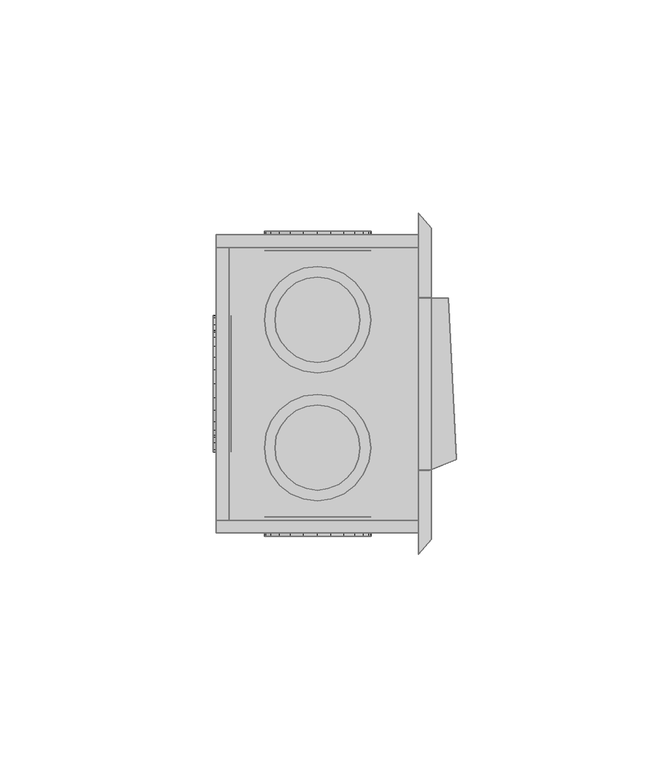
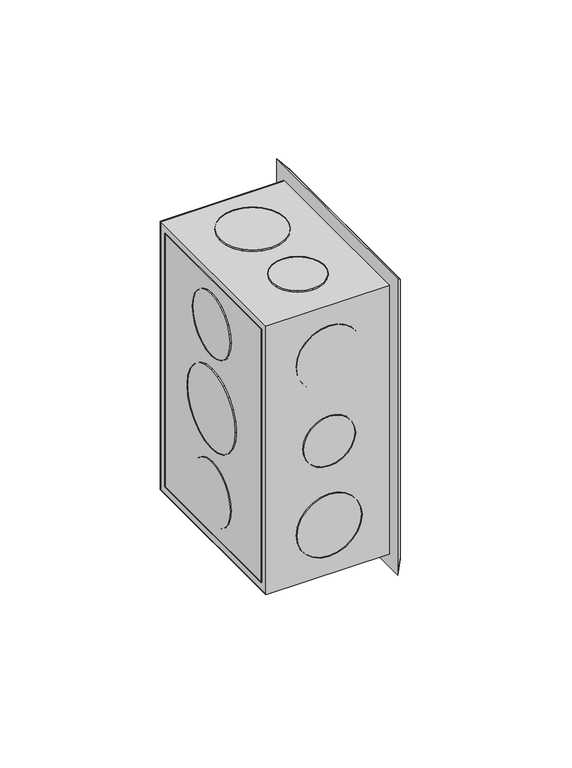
"""IFC4 building model written with IfcOpenShell, lengths in millimetres: proxy geometry,  210971 :  210971."""

from ifc_helpers import new_model, si_unit, origin, place, context, project, spatial, triangles, source, transform, mapped, element, save


def generic_models_83284b2e(model_context):
    return source(origin(), model_context, "Body", "Tessellation", [
        triangles([(6623.3997849, 27279.9999756, 1254.3000378), (6623.3997849, 27277.0001587, 1148.7000154), (6623.3997849, 27279.9999756, 1145.6999805), (6623.3997849, 27277.0001587, 1251.2999302), (6623.3997849, 27209.9995972, 1254.3000378), (6623.3997849, 27212.9994141, 1251.2999302), (6623.3997849, 27209.9995972, 1145.6999805), (6623.3997849, 27212.9994141, 1148.7000154), (6575.8997772, 27277.0001587, 1251.2999302), (6575.8997772, 27277.0001587, 1148.7000154), (6575.8997772, 27209.9995972, 1254.3000378), (6575.8997772, 27209.9995972, 1145.6999805), (6575.8997772, 27212.9994141, 1251.2999302), (6575.8997772, 27279.9999756, 1145.6999805), (6575.8997772, 27212.9994141, 1148.7000154), (6575.8997772, 27279.9999756, 1254.3000378), (6578.9001755, 27277.0001587, 1251.2999302), (6578.9001755, 27212.9994141, 1148.7000154), (6578.9001755, 27277.0001587, 1148.7000154), (6578.9001755, 27212.9994141, 1251.2999302), (6579.400145, 27258.898938, 1191.9999887), (6579.400145, 27252.9992981, 1186.0999855), (6579.400145, 27256.2990967, 1188.6999722), (6579.400145, 27260.4988403, 1195.8999687), (6579.400145, 27249.19953, 1184.5000105), (6579.400145, 27261.0011353, 1200.0000092), (6579.400145, 27244.9997864, 1183.9999683), (6579.400145, 27260.4988403, 1204.0999769), (6579.400145, 27240.9000366, 1184.5000105), (6579.400145, 27258.898938, 1208.0000296), (6579.400145, 27237.0002747, 1186.0999855), (6579.400145, 27256.2990967, 1211.2999735), (6579.400145, 27233.7004761, 1188.6999722), (6579.400145, 27252.9992981, 1213.9000328), (6579.400145, 27231.2006287, 1191.9999887), (6579.400145, 27249.19953, 1215.5000078), (6579.400145, 27229.6007263, 1195.8999687), (6579.400145, 27244.9997864, 1215.9999773), (6579.400145, 27229.0007629, 1200.0000092), (6579.400145, 27240.9000366, 1215.5000078), (6579.400145, 27229.6007263, 1204.0999769), (6579.400145, 27237.0002747, 1213.9000328), (6579.400145, 27231.2006287, 1208.0000296), (6579.400145, 27233.7004761, 1211.2999735), (6575.1998199, 27240.9000366, 1184.5000105), (6575.1998199, 27244.9997864, 1183.9999683), (6575.1998199, 27249.19953, 1184.5000105), (6575.1998199, 27252.9992981, 1186.0999855), (6575.1998199, 27256.2990967, 1188.6999722), (6575.1998199, 27258.898938, 1191.9999887), (6575.1998199, 27260.4988403, 1195.8999687), (6575.1998199, 27261.0011353, 1200.0000092), (6575.1998199, 27260.4988403, 1204.0999769), (6575.1998199, 27258.898938, 1208.0000296), (6575.1998199, 27256.2990967, 1211.2999735), (6575.1998199, 27252.9992981, 1213.9000328), (6575.1998199, 27249.19953, 1215.5000078), (6575.1998199, 27244.9997864, 1215.9999773), (6575.1998199, 27240.9000366, 1215.5000078), (6575.1998199, 27237.0002747, 1213.9000328), (6575.1998199, 27233.7004761, 1211.2999735), (6575.1998199, 27231.2006287, 1208.0000296), (6575.1998199, 27229.6007263, 1204.0999769), (6575.1998199, 27229.0007629, 1200.0000092), (6575.1998199, 27229.6007263, 1195.8999687), (6575.1998199, 27231.2006287, 1191.9999887), (6575.1998199, 27233.7004761, 1188.6999722), (6575.1998199, 27237.0002747, 1186.0999855), (6579.400145, 27255.8991211, 1227.8000565), (6579.400145, 27251.2994019, 1223.2000465), (6579.400145, 27253.8992432, 1225.2000698), (6579.400145, 27257.0990479, 1230.8000187), (6579.400145, 27248.299585, 1221.8999805), (6579.400145, 27257.4990234, 1233.9999687), (6579.400145, 27244.9997864, 1221.500005), (6579.400145, 27257.0990479, 1237.2000641), (6579.400145, 27241.7999817, 1221.8999805), (6579.400145, 27255.8991211, 1240.3000202), (6579.400145, 27238.8001648, 1223.2000465), (6579.400145, 27253.8992432, 1242.800013), (6579.400145, 27236.2003235, 1225.2000698), (6579.400145, 27234.2004456, 1227.8000565), (6579.400145, 27251.2994019, 1244.8000362), (6579.400145, 27248.299585, 1246.0999569), (6579.400145, 27233.0005188, 1230.8000187), (6579.400145, 27244.9997864, 1246.4999325), (6579.400145, 27232.5005493, 1233.9999687), (6579.400145, 27241.7999817, 1246.0999569), (6579.400145, 27233.0005188, 1237.2000641), (6579.400145, 27234.2004456, 1240.3000202), (6579.400145, 27238.8001648, 1244.8000362), (6579.400145, 27236.2003235, 1242.800013), (6575.1998199, 27233.0005188, 1230.8000187), (6575.1998199, 27234.2004456, 1227.8000565), (6575.1998199, 27236.2003235, 1225.2000698), (6575.1998199, 27238.8001648, 1223.2000465), (6575.1998199, 27241.7999817, 1221.8999805), (6575.1998199, 27244.9997864, 1221.500005), (6575.1998199, 27248.299585, 1221.8999805), (6575.1998199, 27251.2994019, 1223.2000465), (6575.1998199, 27253.8992432, 1225.2000698), (6575.1998199, 27255.8991211, 1227.8000565), (6575.1998199, 27257.0990479, 1230.8000187), (6575.1998199, 27257.4990234, 1233.9999687), (6575.1998199, 27257.0990479, 1237.2000641), (6575.1998199, 27255.8991211, 1240.3000202), (6575.1998199, 27253.8992432, 1242.800013), (6575.1998199, 27251.2994019, 1244.8000362), (6575.1998199, 27248.299585, 1246.0999569), (6575.1998199, 27244.9997864, 1246.4999325), (6575.1998199, 27241.7999817, 1246.0999569), (6575.1998199, 27238.8001648, 1244.8000362), (6575.1998199, 27236.2003235, 1242.800013), (6575.1998199, 27234.2004456, 1240.3000202), (6575.1998199, 27233.0005188, 1237.2000641), (6575.1998199, 27232.5005493, 1233.9999687), (6575.1998199, 27251.2994019, 1155.1999821), (6575.1998199, 27255.8991211, 1159.6999981), (6575.1998199, 27253.8992432, 1157.2000053), (6575.1998199, 27248.299585, 1153.8999887), (6575.1998199, 27257.0990479, 1162.8000269), (6575.1998199, 27244.9997864, 1153.5000132), (6575.1998199, 27257.4990234, 1165.9999769), (6575.1998199, 27241.7999817, 1153.8999887), (6575.1998199, 27257.0990479, 1169.1999996), (6575.1998199, 27238.8001648, 1155.1999821), (6575.1998199, 27255.8991211, 1172.2000345), (6575.1998199, 27236.2003235, 1157.2000053), (6575.1998199, 27253.8992432, 1174.8000212), (6575.1998199, 27234.2004456, 1159.6999981), (6575.1998199, 27251.2994019, 1176.7999718), (6575.1998199, 27233.0005188, 1162.8000269), (6575.1998199, 27248.299585, 1178.0999651), (6575.1998199, 27244.9997864, 1178.5000134), (6575.1998199, 27232.5005493, 1165.9999769), (6575.1998199, 27233.0005188, 1169.1999996), (6575.1998199, 27241.7999817, 1178.0999651), (6575.1998199, 27234.2004456, 1172.2000345), (6575.1998199, 27238.8001648, 1176.7999718), (6575.1998199, 27236.2003235, 1174.8000212), (6579.400145, 27248.299585, 1178.0999651), (6579.400145, 27244.9997864, 1178.5000134), (6579.400145, 27251.2994019, 1176.7999718), (6579.400145, 27253.8992432, 1174.8000212), (6579.400145, 27255.8991211, 1172.2000345), (6579.400145, 27257.0990479, 1169.1999996), (6579.400145, 27257.4990234, 1165.9999769), (6579.400145, 27257.0990479, 1162.8000269), (6579.400145, 27255.8991211, 1159.6999981), (6579.400145, 27253.8992432, 1157.2000053), (6579.400145, 27251.2994019, 1155.1999821), (6579.400145, 27248.299585, 1153.8999887), (6579.400145, 27244.9997864, 1153.5000132), (6579.400145, 27241.7999817, 1153.8999887), (6579.400145, 27238.8001648, 1155.1999821), (6579.400145, 27236.2003235, 1157.2000053), (6579.400145, 27234.2004456, 1159.6999981), (6579.400145, 27233.0005188, 1162.8000269), (6579.400145, 27232.5005493, 1165.9999769), (6579.400145, 27233.0005188, 1169.1999996), (6579.400145, 27234.2004456, 1172.2000345), (6579.400145, 27236.2003235, 1174.8000212), (6579.400145, 27238.8001648, 1176.7999718), (6579.400145, 27241.7999817, 1178.0999651), (6594.6997925, 27276.2002075, 1191.3000315), (6591.0000183, 27276.2002075, 1195.0000237), (6592.5999207, 27276.2002075, 1192.9000065), (6590.0000793, 27276.2002075, 1197.4000225), (6597.1002274, 27276.2002075, 1190.3000198), (6589.7000977, 27276.2002075, 1200.0000092), (6599.7000687, 27276.2002075, 1189.9999655), (6602.1999161, 27276.2002075, 1190.3000198), (6590.0000793, 27276.2002075, 1202.5999958), (6591.0000183, 27276.2002075, 1204.9999947), (6604.6997635, 27276.2002075, 1191.3000315), (6592.5999207, 27276.2002075, 1207.1000118), (6606.7002228, 27276.2002075, 1192.9000065), (6608.3001251, 27276.2002075, 1195.0000237), (6594.6997925, 27276.2002075, 1208.6999868), (6609.3000641, 27276.2002075, 1197.4000225), (6597.1002274, 27276.2002075, 1209.6999985), (6609.7000397, 27276.2002075, 1200.0000092), (6599.7000687, 27276.2002075, 1209.9999802), (6609.3000641, 27276.2002075, 1202.5999958), (6602.1999161, 27276.2002075, 1209.6999985), (6604.6997635, 27276.2002075, 1208.6999868), (6608.3001251, 27276.2002075, 1204.9999947), (6606.7002228, 27276.2002075, 1207.1000118), (6599.7000687, 27280.7999268, 1189.9999655), (6597.1002274, 27280.7999268, 1190.3000198), (6602.1999161, 27280.7999268, 1190.3000198), (6604.6997635, 27280.7999268, 1191.3000315), (6606.7002228, 27280.7999268, 1192.9000065), (6608.3001251, 27280.7999268, 1195.0000237), (6609.3000641, 27280.7999268, 1197.4000225), (6609.7000397, 27280.7999268, 1200.0000092), (6609.3000641, 27280.7999268, 1202.5999958), (6608.3001251, 27280.7999268, 1204.9999947), (6606.7002228, 27280.7999268, 1207.1000118), (6604.6997635, 27280.7999268, 1208.6999868), (6602.1999161, 27280.7999268, 1209.6999985), (6599.7000687, 27280.7999268, 1209.9999802), (6597.1002274, 27280.7999268, 1209.6999985), (6594.6997925, 27280.7999268, 1208.6999868), (6592.5999207, 27280.7999268, 1207.1000118), (6591.0000183, 27280.7999268, 1204.9999947), (6590.0000793, 27280.7999268, 1202.5999958), (6589.7000977, 27280.7999268, 1200.0000092), (6590.0000793, 27280.7999268, 1197.4000225), (6591.0000183, 27280.7999268, 1195.0000237), (6592.5999207, 27280.7999268, 1192.9000065), (6594.6997925, 27280.7999268, 1191.3000315), (6593.3998718, 27276.2002075, 1223.2000465), (6588.8001526, 27276.2002075, 1227.8000565), (6590.8000305, 27276.2002075, 1225.2000698), (6596.4002701, 27276.2002075, 1221.8999805), (6587.6002258, 27276.2002075, 1230.8000187), (6587.2002502, 27276.2002075, 1233.9999687), (6599.7000687, 27276.2002075, 1221.500005), (6602.8998734, 27276.2002075, 1221.8999805), (6587.6002258, 27276.2002075, 1237.2000641), (6588.8001526, 27276.2002075, 1240.3000202), (6605.9002716, 27276.2002075, 1223.2000465), (6608.5001129, 27276.2002075, 1225.2000698), (6590.8000305, 27276.2002075, 1242.800013), (6610.4999908, 27276.2002075, 1227.8000565), (6593.3998718, 27276.2002075, 1244.8000362), (6611.6999176, 27276.2002075, 1230.8000187), (6596.4002701, 27276.2002075, 1246.0999569), (6612.1998871, 27276.2002075, 1233.9999687), (6599.7000687, 27276.2002075, 1246.4999325), (6611.6999176, 27276.2002075, 1237.2000641), (6602.8998734, 27276.2002075, 1246.0999569), (6610.4999908, 27276.2002075, 1240.3000202), (6605.9002716, 27276.2002075, 1244.8000362), (6608.5001129, 27276.2002075, 1242.800013), (6599.7000687, 27280.7999268, 1221.500005), (6596.4002701, 27280.7999268, 1221.8999805), (6602.8998734, 27280.7999268, 1221.8999805), (6605.9002716, 27280.7999268, 1223.2000465), (6608.5001129, 27280.7999268, 1225.2000698), (6610.4999908, 27280.7999268, 1227.8000565), (6611.6999176, 27280.7999268, 1230.8000187), (6612.1998871, 27280.7999268, 1233.9999687), (6611.6999176, 27280.7999268, 1237.2000641), (6610.4999908, 27280.7999268, 1240.3000202), (6608.5001129, 27280.7999268, 1242.800013), (6605.9002716, 27280.7999268, 1244.8000362), (6602.8998734, 27280.7999268, 1246.0999569), (6599.7000687, 27280.7999268, 1246.4999325), (6596.4002701, 27280.7999268, 1246.0999569), (6593.3998718, 27280.7999268, 1244.8000362), (6590.8000305, 27280.7999268, 1242.800013), (6588.8001526, 27280.7999268, 1240.3000202), (6587.6002258, 27280.7999268, 1237.2000641), (6587.2002502, 27280.7999268, 1233.9999687), (6587.6002258, 27280.7999268, 1230.8000187), (6588.8001526, 27280.7999268, 1227.8000565), (6590.8000305, 27280.7999268, 1225.2000698), (6593.3998718, 27280.7999268, 1223.2000465), (6588.8001526, 27280.7999268, 1159.6999981), (6593.3998718, 27280.7999268, 1155.1999821), (6590.8000305, 27280.7999268, 1157.2000053), (6587.6002258, 27280.7999268, 1162.8000269), (6596.4002701, 27280.7999268, 1153.8999887), (6587.2002502, 27280.7999268, 1165.9999769), (6599.7000687, 27280.7999268, 1153.5000132), (6587.6002258, 27280.7999268, 1169.1999996), (6602.8998734, 27280.7999268, 1153.8999887), (6588.8001526, 27280.7999268, 1172.2000345), (6605.9002716, 27280.7999268, 1155.1999821), (6590.8000305, 27280.7999268, 1174.8000212), (6608.5001129, 27280.7999268, 1157.2000053), (6593.3998718, 27280.7999268, 1176.7999718), (6610.4999908, 27280.7999268, 1159.6999981), (6596.4002701, 27280.7999268, 1178.0999651), (6611.6999176, 27280.7999268, 1162.8000269), (6599.7000687, 27280.7999268, 1178.5000134), (6612.1998871, 27280.7999268, 1165.9999769), (6602.8998734, 27280.7999268, 1178.0999651), (6611.6999176, 27280.7999268, 1169.1999996), (6605.9002716, 27280.7999268, 1176.7999718), (6610.4999908, 27280.7999268, 1172.2000345), (6608.5001129, 27280.7999268, 1174.8000212), (6596.4002701, 27276.2002075, 1178.0999651), (6599.7000687, 27276.2002075, 1178.5000134), (6602.8998734, 27276.2002075, 1178.0999651), (6605.9002716, 27276.2002075, 1176.7999718), (6608.5001129, 27276.2002075, 1174.8000212), (6610.4999908, 27276.2002075, 1172.2000345), (6611.6999176, 27276.2002075, 1169.1999996), (6612.1998871, 27276.2002075, 1165.9999769), (6611.6999176, 27276.2002075, 1162.8000269), (6610.4999908, 27276.2002075, 1159.6999981), (6608.5001129, 27276.2002075, 1157.2000053), (6605.9002716, 27276.2002075, 1155.1999821), (6602.8998734, 27276.2002075, 1153.8999887), (6599.7000687, 27276.2002075, 1153.5000132), (6596.4002701, 27276.2002075, 1153.8999887), (6593.3998718, 27276.2002075, 1155.1999821), (6590.8000305, 27276.2002075, 1157.2000053), (6588.8001526, 27276.2002075, 1159.6999981), (6587.6002258, 27276.2002075, 1162.8000269), (6587.2002502, 27276.2002075, 1165.9999769), (6587.6002258, 27276.2002075, 1169.1999996), (6588.8001526, 27276.2002075, 1172.2000345), (6590.8000305, 27276.2002075, 1174.8000212), (6593.3998718, 27276.2002075, 1176.7999718), (6591.0000183, 27213.7993652, 1195.0000237), (6594.6997925, 27213.7993652, 1191.3000315), (6592.5999207, 27213.7993652, 1192.9000065), (6590.0000793, 27213.7993652, 1197.4000225), (6597.1002274, 27213.7993652, 1190.3000198), (6589.7000977, 27213.7993652, 1200.0000092), (6599.7000687, 27213.7993652, 1189.9999655), (6590.0000793, 27213.7993652, 1202.5999958), (6602.1999161, 27213.7993652, 1190.3000198), (6591.0000183, 27213.7993652, 1204.9999947), (6604.6997635, 27213.7993652, 1191.3000315), (6592.5999207, 27213.7993652, 1207.1000118), (6606.7002228, 27213.7993652, 1192.9000065), (6594.6997925, 27213.7993652, 1208.6999868), (6608.3001251, 27213.7993652, 1195.0000237), (6597.1002274, 27213.7993652, 1209.6999985), (6609.3000641, 27213.7993652, 1197.4000225), (6609.7000397, 27213.7993652, 1200.0000092), (6599.7000687, 27213.7993652, 1209.9999802), (6602.1999161, 27213.7993652, 1209.6999985), (6609.3000641, 27213.7993652, 1202.5999958), (6604.6997635, 27213.7993652, 1208.6999868), (6608.3001251, 27213.7993652, 1204.9999947), (6606.7002228, 27213.7993652, 1207.1000118), (6597.1002274, 27209.199646, 1209.6999985), (6599.7000687, 27209.199646, 1209.9999802), (6602.1999161, 27209.199646, 1209.6999985), (6604.6997635, 27209.199646, 1208.6999868), (6606.7002228, 27209.199646, 1207.1000118), (6608.3001251, 27209.199646, 1204.9999947), (6609.3000641, 27209.199646, 1202.5999958), (6609.7000397, 27209.199646, 1200.0000092), (6609.3000641, 27209.199646, 1197.4000225), (6608.3001251, 27209.199646, 1195.0000237), (6606.7002228, 27209.199646, 1192.9000065), (6604.6997635, 27209.199646, 1191.3000315), (6602.1999161, 27209.199646, 1190.3000198), (6599.7000687, 27209.199646, 1189.9999655), (6597.1002274, 27209.199646, 1190.3000198), (6594.6997925, 27209.199646, 1191.3000315), (6592.5999207, 27209.199646, 1192.9000065), (6591.0000183, 27209.199646, 1195.0000237), (6590.0000793, 27209.199646, 1197.4000225), (6589.7000977, 27209.199646, 1200.0000092), (6590.0000793, 27209.199646, 1202.5999958), (6591.0000183, 27209.199646, 1204.9999947), (6592.5999207, 27209.199646, 1207.1000118), (6594.6997925, 27209.199646, 1208.6999868), (6588.8001526, 27213.7993652, 1159.6999981), (6593.3998718, 27213.7993652, 1155.1999821), (6590.8000305, 27213.7993652, 1157.2000053), (6587.6002258, 27213.7993652, 1162.8000269), (6596.4002701, 27213.7993652, 1153.8999887), (6587.2002502, 27213.7993652, 1165.9999769), (6599.7000687, 27213.7993652, 1153.5000132), (6587.6002258, 27213.7993652, 1169.1999996), (6602.8998734, 27213.7993652, 1153.8999887), (6588.8001526, 27213.7993652, 1172.2000345), (6605.9002716, 27213.7993652, 1155.1999821), (6590.8000305, 27213.7993652, 1174.8000212), (6608.5001129, 27213.7993652, 1157.2000053), (6593.3998718, 27213.7993652, 1176.7999718), (6610.4999908, 27213.7993652, 1159.6999981), (6596.4002701, 27213.7993652, 1178.0999651), (6611.6999176, 27213.7993652, 1162.8000269), (6599.7000687, 27213.7993652, 1178.5000134), (6612.1998871, 27213.7993652, 1165.9999769), (6602.8998734, 27213.7993652, 1178.0999651), (6611.6999176, 27213.7993652, 1169.1999996), (6605.9002716, 27213.7993652, 1176.7999718), (6610.4999908, 27213.7993652, 1172.2000345), (6608.5001129, 27213.7993652, 1174.8000212), (6596.4002701, 27209.199646, 1178.0999651), (6599.7000687, 27209.199646, 1178.5000134), (6602.8998734, 27209.199646, 1178.0999651), (6605.9002716, 27209.199646, 1176.7999718), (6608.5001129, 27209.199646, 1174.8000212), (6610.4999908, 27209.199646, 1172.2000345), (6611.6999176, 27209.199646, 1169.1999996), (6612.1998871, 27209.199646, 1165.9999769), (6611.6999176, 27209.199646, 1162.8000269), (6610.4999908, 27209.199646, 1159.6999981), (6608.5001129, 27209.199646, 1157.2000053), (6605.9002716, 27209.199646, 1155.1999821), (6602.8998734, 27209.199646, 1153.8999887), (6599.7000687, 27209.199646, 1153.5000132), (6596.4002701, 27209.199646, 1153.8999887), (6593.3998718, 27209.199646, 1155.1999821), (6590.8000305, 27209.199646, 1157.2000053), (6588.8001526, 27209.199646, 1159.6999981), (6587.6002258, 27209.199646, 1162.8000269), (6587.2002502, 27209.199646, 1165.9999769), (6587.6002258, 27209.199646, 1169.1999996), (6588.8001526, 27209.199646, 1172.2000345), (6590.8000305, 27209.199646, 1174.8000212), (6593.3998718, 27209.199646, 1176.7999718), (6593.3998718, 27209.199646, 1223.2000465), (6588.8001526, 27209.199646, 1227.8000565), (6590.8000305, 27209.199646, 1225.2000698), (6596.4002701, 27209.199646, 1221.8999805), (6587.6002258, 27209.199646, 1230.8000187), (6587.2002502, 27209.199646, 1233.9999687), (6599.7000687, 27209.199646, 1221.500005), (6602.8998734, 27209.199646, 1221.8999805), (6587.6002258, 27209.199646, 1237.2000641), (6588.8001526, 27209.199646, 1240.3000202), (6605.9002716, 27209.199646, 1223.2000465), (6608.5001129, 27209.199646, 1225.2000698), (6590.8000305, 27209.199646, 1242.800013), (6610.4999908, 27209.199646, 1227.8000565), (6593.3998718, 27209.199646, 1244.8000362), (6611.6999176, 27209.199646, 1230.8000187), (6596.4002701, 27209.199646, 1246.0999569), (6612.1998871, 27209.199646, 1233.9999687), (6599.7000687, 27209.199646, 1246.4999325), (6611.6999176, 27209.199646, 1237.2000641), (6602.8998734, 27209.199646, 1246.0999569), (6610.4999908, 27209.199646, 1240.3000202), (6605.9002716, 27209.199646, 1244.8000362), (6608.5001129, 27209.199646, 1242.800013), (6599.7000687, 27213.7993652, 1221.500005), (6596.4002701, 27213.7993652, 1221.8999805), (6602.8998734, 27213.7993652, 1221.8999805), (6605.9002716, 27213.7993652, 1223.2000465), (6608.5001129, 27213.7993652, 1225.2000698), (6610.4999908, 27213.7993652, 1227.8000565), (6611.6999176, 27213.7993652, 1230.8000187), (6612.1998871, 27213.7993652, 1233.9999687), (6611.6999176, 27213.7993652, 1237.2000641), (6610.4999908, 27213.7993652, 1240.3000202), (6608.5001129, 27213.7993652, 1242.800013), (6605.9002716, 27213.7993652, 1244.8000362), (6602.8998734, 27213.7993652, 1246.0999569), (6599.7000687, 27213.7993652, 1246.4999325), (6596.4002701, 27213.7993652, 1246.0999569), (6593.3998718, 27213.7993652, 1244.8000362), (6590.8000305, 27213.7993652, 1242.800013), (6588.8001526, 27213.7993652, 1240.3000202), (6587.6002258, 27213.7993652, 1237.2000641), (6587.2002502, 27213.7993652, 1233.9999687), (6587.6002258, 27213.7993652, 1230.8000187), (6588.8001526, 27213.7993652, 1227.8000565), (6590.8000305, 27213.7993652, 1225.2000698), (6593.3998718, 27213.7993652, 1223.2000465), (6593.3998718, 27270.900531, 1250.9999485), (6588.8001526, 27266.3008118, 1250.9999485), (6590.8000305, 27268.9006531, 1250.9999485), (6596.4002701, 27272.1004578, 1250.9999485), (6587.6002258, 27263.3009949, 1250.9999485), (6587.2002502, 27259.9988708, 1250.9999485), (6599.7000687, 27272.5004333, 1250.9999485), (6602.8998734, 27272.1004578, 1250.9999485), (6587.6002258, 27256.7990662, 1250.9999485), (6588.8001526, 27253.7992493, 1250.9999485), (6605.9002716, 27270.900531, 1250.9999485), (6608.5001129, 27268.9006531, 1250.9999485), (6590.8000305, 27251.199408, 1250.9999485), (6593.3998718, 27249.19953, 1250.9999485), (6610.4999908, 27266.3008118, 1250.9999485), (6611.6999176, 27263.3009949, 1250.9999485), (6596.4002701, 27247.9996033, 1250.9999485), (6612.1998871, 27259.9988708, 1250.9999485), (6599.7000687, 27247.4996338, 1250.9999485), (6611.6999176, 27256.7990662, 1250.9999485), (6602.8998734, 27247.9996033, 1250.9999485), (6605.9002716, 27249.19953, 1250.9999485), (6610.4999908, 27253.7992493, 1250.9999485), (6608.5001129, 27251.199408, 1250.9999485), (6587.2002502, 27259.9988708, 1255.1999828), (6587.6002258, 27256.7990662, 1255.1999828), (6587.6002258, 27263.3009949, 1255.1999828), (6588.8001526, 27266.3008118, 1255.1999828), (6590.8000305, 27268.9006531, 1255.1999828), (6593.3998718, 27270.900531, 1255.1999828), (6596.4002701, 27272.1004578, 1255.1999828), (6599.7000687, 27272.5004333, 1255.1999828), (6602.8998734, 27272.1004578, 1255.1999828), (6605.9002716, 27270.900531, 1255.1999828), (6608.5001129, 27268.9006531, 1255.1999828), (6610.4999908, 27266.3008118, 1255.1999828), (6611.6999176, 27263.3009949, 1255.1999828), (6612.1998871, 27259.9988708, 1255.1999828), (6611.6999176, 27256.7990662, 1255.1999828), (6610.4999908, 27253.7992493, 1255.1999828), (6608.5001129, 27251.199408, 1255.1999828), (6605.9002716, 27249.19953, 1255.1999828), (6602.8998734, 27247.9996033, 1255.1999828), (6599.7000687, 27247.4996338, 1255.1999828), (6596.4002701, 27247.9996033, 1255.1999828), (6593.3998718, 27249.19953, 1255.1999828), (6590.8000305, 27251.199408, 1255.1999828), (6588.8001526, 27253.7992493, 1255.1999828), (6594.6997925, 27238.7001709, 1250.9999485), (6591.0000183, 27235.0003967, 1250.9999485), (6592.5999207, 27237.1002686, 1250.9999485), (6590.0000793, 27232.6005432, 1250.9999485), (6597.1002274, 27239.7001099, 1250.9999485), (6589.7000977, 27230.0007019, 1250.9999485), (6599.7000687, 27240.0000916, 1250.9999485), (6602.1999161, 27239.7001099, 1250.9999485), (6590.0000793, 27227.4008606, 1250.9999485), (6591.0000183, 27225.0010071, 1250.9999485), (6604.6997635, 27238.7001709, 1250.9999485), (6592.5999207, 27223.0011292, 1250.9999485), (6606.7002228, 27237.1002686, 1250.9999485), (6608.3001251, 27235.0003967, 1250.9999485), (6594.6997925, 27221.3989014, 1250.9999485), (6597.1002274, 27220.3989624, 1250.9999485), (6609.3000641, 27232.6005432, 1250.9999485), (6609.7000397, 27230.0007019, 1250.9999485), (6599.7000687, 27219.9989868, 1250.9999485), (6609.3000641, 27227.4008606, 1250.9999485), (6602.1999161, 27220.3989624, 1250.9999485), (6608.3001251, 27225.0010071, 1250.9999485), (6604.6997635, 27221.3989014, 1250.9999485), (6606.7002228, 27223.0011292, 1250.9999485), (6590.0000793, 27227.4008606, 1255.1999828), (6591.0000183, 27225.0010071, 1255.1999828), (6589.7000977, 27230.0007019, 1255.1999828), (6590.0000793, 27232.6005432, 1255.1999828), (6591.0000183, 27235.0003967, 1255.1999828), (6592.5999207, 27237.1002686, 1255.1999828), (6594.6997925, 27238.7001709, 1255.1999828), (6597.1002274, 27239.7001099, 1255.1999828), (6599.7000687, 27240.0000916, 1255.1999828), (6602.1999161, 27239.7001099, 1255.1999828), (6604.6997635, 27238.7001709, 1255.1999828), (6606.7002228, 27237.1002686, 1255.1999828), (6608.3001251, 27235.0003967, 1255.1999828), (6609.3000641, 27232.6005432, 1255.1999828), (6609.7000397, 27230.0007019, 1255.1999828), (6609.3000641, 27227.4008606, 1255.1999828), (6608.3001251, 27225.0010071, 1255.1999828), (6606.7002228, 27223.0011292, 1255.1999828), (6604.6997635, 27221.3989014, 1255.1999828), (6602.1999161, 27220.3989624, 1255.1999828), (6599.7000687, 27219.9989868, 1255.1999828), (6597.1002274, 27220.3989624, 1255.1999828), (6594.6997925, 27221.3989014, 1255.1999828), (6592.5999207, 27223.0011292, 1255.1999828), (6594.6997925, 27268.7006653, 1144.8000355), (6591.0000183, 27265.0008911, 1144.8000355), (6592.5999207, 27267.1007629, 1144.8000355), (6590.0000793, 27262.6010376, 1144.8000355), (6597.1002274, 27269.7006042, 1144.8000355), (6589.7000977, 27259.9988708, 1144.8000355), (6599.7000687, 27270.0005859, 1144.8000355), (6602.1999161, 27269.7006042, 1144.8000355), (6590.0000793, 27257.3990295, 1144.8000355), (6591.0000183, 27254.999176, 1144.8000355), (6604.6997635, 27268.7006653, 1144.8000355), (6592.5999207, 27252.9992981, 1144.8000355), (6606.7002228, 27267.1007629, 1144.8000355), (6608.3001251, 27265.0008911, 1144.8000355), (6594.6997925, 27251.3993958, 1144.8000355), (6597.1002274, 27250.3994568, 1144.8000355), (6609.3000641, 27262.6010376, 1144.8000355), (6609.7000397, 27259.9988708, 1144.8000355), (6599.7000687, 27249.9994812, 1144.8000355), (6609.3000641, 27257.3990295, 1144.8000355), (6602.1999161, 27250.3994568, 1144.8000355), (6608.3001251, 27254.999176, 1144.8000355), (6604.6997635, 27251.3993958, 1144.8000355), (6606.7002228, 27252.9992981, 1144.8000355), (6590.0000793, 27262.6010376, 1149.099991), (6589.7000977, 27259.9988708, 1149.099991), (6591.0000183, 27265.0008911, 1149.099991), (6592.5999207, 27267.1007629, 1149.099991), (6594.6997925, 27268.7006653, 1149.099991), (6597.1002274, 27269.7006042, 1149.099991), (6599.7000687, 27270.0005859, 1149.099991), (6602.1999161, 27269.7006042, 1149.099991), (6604.6997635, 27268.7006653, 1149.099991), (6606.7002228, 27267.1007629, 1149.099991), (6608.3001251, 27265.0008911, 1149.099991), (6609.3000641, 27262.6010376, 1149.099991), (6609.7000397, 27259.9988708, 1149.099991), (6609.3000641, 27257.3990295, 1149.099991), (6608.3001251, 27254.999176, 1149.099991), (6606.7002228, 27252.9992981, 1149.099991), (6604.6997635, 27251.3993958, 1149.099991), (6602.1999161, 27250.3994568, 1149.099991), (6599.7000687, 27249.9994812, 1149.099991), (6597.1002274, 27250.3994568, 1149.099991), (6594.6997925, 27251.3993958, 1149.099991), (6592.5999207, 27252.9992981, 1149.099991), (6591.0000183, 27254.999176, 1149.099991), (6590.0000793, 27257.3990295, 1149.099991), (6593.3998718, 27240.9000366, 1144.8000355), (6588.8001526, 27236.3003174, 1144.8000355), (6590.8000305, 27238.9001587, 1144.8000355), (6596.4002701, 27242.0999634, 1144.8000355), (6587.6002258, 27233.3005005, 1144.8000355), (6587.2002502, 27230.0007019, 1144.8000355), (6599.7000687, 27242.499939, 1144.8000355), (6602.8998734, 27242.0999634, 1144.8000355), (6587.6002258, 27226.8008972, 1144.8000355), (6588.8001526, 27223.8010803, 1144.8000355), (6605.9002716, 27240.9000366, 1144.8000355), (6608.5001129, 27238.9001587, 1144.8000355), (6590.8000305, 27221.1989136, 1144.8000355), (6593.3998718, 27219.1990356, 1144.8000355), (6610.4999908, 27236.3003174, 1144.8000355), (6611.6999176, 27233.3005005, 1144.8000355), (6596.4002701, 27217.9991089, 1144.8000355), (6612.1998871, 27230.0007019, 1144.8000355), (6599.7000687, 27217.4991394, 1144.8000355), (6611.6999176, 27226.8008972, 1144.8000355), (6602.8998734, 27217.9991089, 1144.8000355), (6605.9002716, 27219.1990356, 1144.8000355), (6610.4999908, 27223.8010803, 1144.8000355), (6608.5001129, 27221.1989136, 1144.8000355), (6587.6002258, 27226.8008972, 1149.099991), (6588.8001526, 27223.8010803, 1149.099991), (6587.2002502, 27230.0007019, 1149.099991), (6587.6002258, 27233.3005005, 1149.099991), (6588.8001526, 27236.3003174, 1149.099991), (6590.8000305, 27238.9001587, 1149.099991), (6593.3998718, 27240.9000366, 1149.099991), (6596.4002701, 27242.0999634, 1149.099991), (6599.7000687, 27242.499939, 1149.099991), (6602.8998734, 27242.0999634, 1149.099991), (6605.9002716, 27240.9000366, 1149.099991), (6608.5001129, 27238.9001587, 1149.099991), (6610.4999908, 27236.3003174, 1149.099991), (6611.6999176, 27233.3005005, 1149.099991), (6612.1998871, 27230.0007019, 1149.099991), (6611.6999176, 27226.8008972, 1149.099991), (6610.4999908, 27223.8010803, 1149.099991), (6608.5001129, 27221.1989136, 1149.099991), (6605.9002716, 27219.1990356, 1149.099991), (6602.8998734, 27217.9991089, 1149.099991), (6599.7000687, 27217.4991394, 1149.099991), (6596.4002701, 27217.9991089, 1149.099991), (6593.3998718, 27219.1990356, 1149.099991), (6590.8000305, 27221.1989136, 1149.099991), (6623.3997849, 27204.9999023, 1139.9999651), (6623.3997849, 27265.2008789, 1188.2999966), (6623.3997849, 27284.9996704, 1139.9999651), (6623.3997849, 27224.8010193, 1188.2999966), (6623.3997849, 27204.9999023, 1259.9999805), (6623.3997849, 27224.8010193, 1211.7000217), (6623.3997849, 27284.9996704, 1259.9999805), (6623.3997849, 27265.2008789, 1211.7000217), (6626.4001831, 27224.8010193, 1188.2999966), (6626.4001831, 27224.8010193, 1211.7000217), (6626.4001831, 27265.2008789, 1188.2999966), (6626.4001831, 27265.2008789, 1211.7000217), (6626.4001831, 27281.499884, 1143.4999695), (6626.4001831, 27281.499884, 1256.5000488), (6626.4001831, 27208.4996887, 1143.4999695), (6626.4001831, 27208.4996887, 1256.5000488), (6630.399939, 27265.100885, 1188.1000088), (6623.3997849, 27224.7010254, 1188.1000088), (6623.3997849, 27265.100885, 1188.1000088), (6632.299823, 27227.3008667, 1188.1000088), (6625.9002136, 27224.7010254, 1188.1000088), (6623.3997849, 27265.100885, 1211.500034), (6623.3997849, 27224.7010254, 1211.500034), (6630.399939, 27265.100885, 1211.500034), (6632.299823, 27227.3008667, 1211.500034), (6625.9002136, 27224.7010254, 1211.500034)], [[1, 2, 3], [2, 1, 4], [5, 4, 1], [4, 5, 6], [3, 2, 7], [7, 2, 8], [7, 8, 6], [7, 6, 5], [2, 9, 10], [9, 2, 4], [7, 11, 12], [11, 7, 5], [4, 13, 9], [13, 4, 6], [3, 12, 14], [12, 3, 7], [13, 8, 15], [8, 13, 6], [16, 3, 14], [3, 16, 1], [15, 2, 10], [2, 15, 8], [11, 1, 16], [1, 11, 5], [12, 10, 14], [10, 12, 15], [11, 15, 12], [15, 11, 13], [14, 10, 16], [16, 10, 9], [16, 9, 13], [16, 13, 11], [17, 18, 19], [18, 17, 20], [18, 13, 15], [13, 18, 20], [19, 15, 10], [15, 19, 18], [9, 19, 10], [19, 9, 17], [13, 17, 9], [17, 13, 20], [15, 9, 10], [9, 15, 13], [21, 22, 23], [22, 21, 24], [25, 22, 24], [25, 24, 26], [27, 25, 26], [27, 26, 28], [29, 27, 28], [29, 28, 30], [31, 29, 30], [31, 30, 32], [31, 32, 33], [33, 32, 34], [33, 34, 35], [35, 34, 36], [35, 36, 37], [37, 36, 38], [37, 38, 39], [39, 38, 40], [39, 40, 41], [41, 40, 42], [41, 42, 43], [43, 42, 44], [27, 45, 46], [45, 27, 29], [25, 46, 47], [46, 25, 27], [22, 47, 48], [47, 22, 25], [23, 48, 49], [48, 23, 22], [50, 23, 49], [23, 50, 21], [51, 21, 50], [21, 51, 24], [52, 24, 51], [24, 52, 26], [53, 26, 52], [26, 53, 28], [54, 28, 53], [28, 54, 30], [55, 30, 54], [30, 55, 32], [56, 32, 55], [32, 56, 34], [57, 34, 56], [34, 57, 36], [58, 36, 57], [36, 58, 38], [59, 38, 58], [38, 59, 40], [60, 40, 59], [40, 60, 42], [61, 42, 60], [42, 61, 44], [43, 61, 62], [61, 43, 44], [41, 62, 63], [62, 41, 43], [39, 63, 64], [63, 39, 41], [37, 64, 65], [64, 37, 39], [35, 65, 66], [65, 35, 37], [33, 66, 67], [66, 33, 35], [31, 67, 68], [67, 31, 33], [29, 68, 45], [68, 29, 31], [48, 50, 49], [50, 48, 47], [51, 50, 47], [51, 47, 46], [52, 51, 46], [52, 46, 45], [53, 52, 45], [53, 45, 68], [54, 53, 68], [54, 68, 67], [54, 67, 55], [55, 67, 66], [55, 66, 56], [56, 66, 65], [56, 65, 57], [57, 65, 64], [57, 64, 58], [58, 64, 63], [58, 63, 59], [59, 63, 62], [59, 62, 60], [60, 62, 61], [69, 70, 71], [70, 69, 72], [73, 70, 72], [73, 72, 74], [75, 73, 74], [75, 74, 76], [77, 75, 76], [77, 76, 78], [79, 77, 78], [79, 78, 80], [81, 79, 80], [81, 80, 82], [82, 80, 83], [82, 83, 84], [82, 84, 85], [85, 84, 86], [85, 86, 87], [87, 86, 88], [87, 88, 89], [89, 88, 90], [90, 88, 91], [90, 91, 92], [82, 93, 94], [93, 82, 85], [81, 94, 95], [94, 81, 82], [79, 95, 96], [95, 79, 81], [77, 96, 97], [96, 77, 79], [75, 97, 98], [97, 75, 77], [73, 98, 99], [98, 73, 75], [70, 99, 100], [99, 70, 73], [71, 100, 101], [100, 71, 70], [102, 71, 101], [71, 102, 69], [103, 69, 102], [69, 103, 72], [104, 72, 103], [72, 104, 74], [105, 74, 104], [74, 105, 76], [106, 76, 105], [76, 106, 78], [107, 78, 106], [78, 107, 80], [108, 80, 107], [80, 108, 83], [109, 83, 108], [83, 109, 84], [110, 84, 109], [84, 110, 86], [111, 86, 110], [86, 111, 88], [112, 88, 111], [88, 112, 91], [113, 91, 112], [91, 113, 92], [90, 113, 114], [113, 90, 92], [89, 114, 115], [114, 89, 90], [87, 115, 116], [115, 87, 89], [85, 116, 93], [116, 85, 87], [100, 102, 101], [102, 100, 99], [103, 102, 99], [103, 99, 98], [104, 103, 98], [104, 98, 97], [105, 104, 97], [106, 105, 97], [106, 97, 96], [106, 96, 95], [106, 95, 107], [107, 95, 94], [107, 94, 108], [108, 94, 93], [108, 93, 109], [109, 93, 116], [109, 116, 110], [110, 116, 115], [110, 115, 111], [111, 115, 114], [111, 114, 112], [112, 114, 113], [117, 118, 119], [118, 117, 120], [121, 118, 120], [121, 120, 122], [123, 121, 122], [123, 122, 124], [125, 123, 124], [125, 124, 126], [127, 125, 126], [127, 126, 128], [127, 128, 129], [129, 128, 130], [129, 130, 131], [131, 130, 132], [131, 132, 133], [133, 132, 134], [134, 132, 135], [134, 135, 136], [134, 136, 137], [137, 136, 138], [137, 138, 139], [139, 138, 140], [134, 141, 133], [141, 134, 142], [133, 143, 131], [143, 133, 141], [131, 144, 129], [144, 131, 143], [129, 145, 127], [145, 129, 144], [127, 146, 125], [146, 127, 145], [125, 147, 123], [147, 125, 146], [123, 148, 121], [148, 123, 147], [121, 149, 118], [149, 121, 148], [118, 150, 119], [150, 118, 149], [150, 117, 119], [117, 150, 151], [151, 120, 117], [120, 151, 152], [152, 122, 120], [122, 152, 153], [153, 124, 122], [124, 153, 154], [154, 126, 124], [126, 154, 155], [155, 128, 126], [128, 155, 156], [156, 130, 128], [130, 156, 157], [157, 132, 130], [132, 157, 158], [158, 135, 132], [135, 158, 159], [159, 136, 135], [136, 159, 160], [160, 138, 136], [138, 160, 161], [161, 140, 138], [140, 161, 162], [140, 163, 139], [163, 140, 162], [139, 164, 137], [164, 139, 163], [137, 142, 134], [142, 137, 164], [149, 151, 150], [151, 149, 148], [152, 151, 148], [153, 152, 148], [153, 148, 147], [153, 147, 146], [154, 153, 146], [154, 146, 145], [155, 154, 145], [155, 145, 144], [156, 155, 144], [156, 144, 157], [157, 144, 143], [157, 143, 141], [157, 141, 158], [158, 141, 142], [158, 142, 159], [159, 142, 164], [159, 164, 160], [160, 164, 163], [160, 163, 161], [161, 163, 162], [165, 166, 167], [168, 166, 165], [168, 165, 169], [170, 168, 169], [170, 169, 171], [170, 171, 172], [173, 170, 172], [174, 173, 172], [174, 172, 175], [176, 174, 175], [176, 175, 177], [176, 177, 178], [176, 178, 179], [179, 178, 180], [179, 180, 181], [181, 180, 182], [181, 182, 183], [183, 182, 184], [183, 184, 185], [185, 184, 186], [186, 184, 187], [186, 187, 188], [189, 169, 190], [169, 189, 171], [191, 171, 189], [171, 191, 172], [192, 172, 191], [172, 192, 175], [193, 175, 192], [175, 193, 177], [194, 177, 193], [177, 194, 178], [195, 178, 194], [178, 195, 180], [196, 180, 195], [180, 196, 182], [197, 182, 196], [182, 197, 184], [198, 184, 197], [184, 198, 187], [199, 187, 198], [187, 199, 188], [186, 199, 200], [199, 186, 188], [185, 200, 201], [200, 185, 186], [183, 201, 202], [201, 183, 185], [181, 202, 203], [202, 181, 183], [179, 203, 204], [203, 179, 181], [176, 204, 205], [204, 176, 179], [174, 205, 206], [205, 174, 176], [173, 206, 207], [206, 173, 174], [170, 207, 208], [207, 170, 173], [168, 208, 209], [208, 168, 170], [166, 209, 210], [209, 166, 168], [167, 210, 211], [210, 167, 166], [212, 167, 211], [167, 212, 165], [190, 165, 212], [165, 190, 169], [210, 212, 211], [212, 210, 209], [190, 212, 209], [190, 209, 208], [189, 190, 208], [189, 208, 207], [191, 189, 207], [191, 207, 206], [192, 191, 206], [192, 206, 205], [192, 205, 193], [193, 205, 204], [193, 204, 194], [194, 204, 203], [194, 203, 195], [195, 203, 196], [196, 203, 202], [196, 202, 201], [196, 201, 197], [197, 201, 200], [197, 200, 198], [198, 200, 199], [213, 214, 215], [214, 213, 216], [217, 214, 216], [218, 217, 216], [218, 216, 219], [218, 219, 220], [221, 218, 220], [222, 221, 220], [222, 220, 223], [222, 223, 224], [222, 224, 225], [225, 224, 226], [225, 226, 227], [227, 226, 228], [227, 228, 229], [229, 228, 230], [229, 230, 231], [231, 230, 232], [231, 232, 233], [233, 232, 234], [233, 234, 235], [235, 234, 236], [237, 216, 238], [216, 237, 219], [239, 219, 237], [219, 239, 220], [240, 220, 239], [220, 240, 223], [241, 223, 240], [223, 241, 224], [242, 224, 241], [224, 242, 226], [243, 226, 242], [226, 243, 228], [244, 228, 243], [228, 244, 230], [245, 230, 244], [230, 245, 232], [246, 232, 245], [232, 246, 234], [247, 234, 246], [234, 247, 236], [235, 247, 248], [247, 235, 236], [233, 248, 249], [248, 233, 235], [231, 249, 250], [249, 231, 233], [229, 250, 251], [250, 229, 231], [227, 251, 252], [251, 227, 229], [225, 252, 253], [252, 225, 227], [222, 253, 254], [253, 222, 225], [221, 254, 255], [254, 221, 222], [218, 255, 256], [255, 218, 221], [217, 256, 257], [256, 217, 218], [214, 257, 258], [257, 214, 217], [215, 258, 259], [258, 215, 214], [260, 215, 259], [215, 260, 213], [238, 213, 260], [213, 238, 216], [258, 260, 259], [260, 258, 257], [238, 260, 257], [238, 257, 256], [237, 238, 256], [237, 256, 255], [239, 237, 255], [239, 255, 254], [240, 239, 254], [240, 254, 253], [241, 240, 253], [241, 253, 252], [241, 252, 242], [242, 252, 251], [242, 251, 243], [243, 251, 244], [244, 251, 250], [244, 250, 249], [244, 249, 245], [245, 249, 246], [246, 249, 248], [246, 248, 247], [261, 262, 263], [262, 261, 264], [265, 262, 264], [265, 264, 266], [267, 265, 266], [267, 266, 268], [269, 267, 268], [269, 268, 270], [271, 269, 270], [271, 270, 272], [273, 271, 272], [273, 272, 274], [273, 274, 275], [275, 274, 276], [275, 276, 277], [277, 276, 278], [277, 278, 279], [279, 278, 280], [279, 280, 281], [281, 280, 282], [281, 282, 283], [283, 282, 284], [285, 278, 276], [278, 285, 286], [286, 280, 278], [280, 286, 287], [287, 282, 280], [282, 287, 288], [288, 284, 282], [284, 288, 289], [284, 290, 283], [290, 284, 289], [283, 291, 281], [291, 283, 290], [281, 292, 279], [292, 281, 291], [279, 293, 277], [293, 279, 292], [277, 294, 275], [294, 277, 293], [275, 295, 273], [295, 275, 294], [273, 296, 271], [296, 273, 295], [271, 297, 269], [297, 271, 296], [269, 298, 267], [298, 269, 297], [267, 299, 265], [299, 267, 298], [265, 300, 262], [300, 265, 299], [262, 301, 263], [301, 262, 300], [301, 261, 263], [261, 301, 302], [302, 264, 261], [264, 302, 303], [303, 266, 264], [266, 303, 304], [304, 268, 266], [268, 304, 305], [305, 270, 268], [270, 305, 306], [306, 272, 270], [272, 306, 307], [307, 274, 272], [274, 307, 308], [308, 276, 274], [276, 308, 285], [300, 302, 301], [302, 300, 299], [303, 302, 299], [303, 299, 298], [304, 303, 298], [304, 298, 297], [305, 304, 297], [305, 297, 296], [306, 305, 296], [306, 296, 295], [306, 295, 307], [307, 295, 294], [307, 294, 308], [308, 294, 293], [308, 293, 285], [285, 293, 286], [286, 293, 292], [286, 292, 291], [286, 291, 287], [287, 291, 288], [288, 291, 290], [288, 290, 289], [309, 310, 311], [310, 309, 312], [313, 310, 312], [313, 312, 314], [315, 313, 314], [315, 314, 316], [317, 315, 316], [317, 316, 318], [319, 317, 318], [319, 318, 320], [319, 320, 321], [321, 320, 322], [321, 322, 323], [323, 322, 324], [323, 324, 325], [325, 324, 326], [326, 324, 327], [326, 327, 328], [326, 328, 329], [329, 328, 330], [329, 330, 331], [331, 330, 332], [333, 327, 324], [327, 333, 334], [334, 328, 327], [328, 334, 335], [335, 330, 328], [330, 335, 336], [336, 332, 330], [332, 336, 337], [332, 338, 331], [338, 332, 337], [331, 339, 329], [339, 331, 338], [329, 340, 326], [340, 329, 339], [326, 341, 325], [341, 326, 340], [325, 342, 323], [342, 325, 341], [323, 343, 321], [343, 323, 342], [321, 344, 319], [344, 321, 343], [319, 345, 317], [345, 319, 344], [317, 346, 315], [346, 317, 345], [315, 347, 313], [347, 315, 346], [313, 348, 310], [348, 313, 347], [310, 349, 311], [349, 310, 348], [349, 309, 311], [309, 349, 350], [350, 312, 309], [312, 350, 351], [351, 314, 312], [314, 351, 352], [352, 316, 314], [316, 352, 353], [353, 318, 316], [318, 353, 354], [354, 320, 318], [320, 354, 355], [355, 322, 320], [322, 355, 356], [356, 324, 322], [324, 356, 333], [348, 350, 349], [351, 350, 348], [351, 348, 347], [352, 351, 347], [352, 347, 346], [352, 346, 345], [353, 352, 345], [354, 353, 345], [354, 345, 344], [355, 354, 344], [355, 344, 343], [355, 343, 342], [355, 342, 356], [356, 342, 341], [356, 341, 333], [333, 341, 340], [333, 340, 334], [334, 340, 339], [334, 339, 335], [335, 339, 336], [336, 339, 338], [336, 338, 337], [357, 358, 359], [358, 357, 360], [361, 358, 360], [361, 360, 362], [363, 361, 362], [363, 362, 364], [365, 363, 364], [365, 364, 366], [367, 365, 366], [367, 366, 368], [369, 367, 368], [369, 368, 370], [369, 370, 371], [371, 370, 372], [371, 372, 373], [373, 372, 374], [373, 374, 375], [375, 374, 376], [375, 376, 377], [377, 376, 378], [377, 378, 379], [379, 378, 380], [381, 374, 372], [374, 381, 382], [382, 376, 374], [376, 382, 383], [383, 378, 376], [378, 383, 384], [384, 380, 378], [380, 384, 385], [380, 386, 379], [386, 380, 385], [379, 387, 377], [387, 379, 386], [377, 388, 375], [388, 377, 387], [375, 389, 373], [389, 375, 388], [373, 390, 371], [390, 373, 389], [371, 391, 369], [391, 371, 390], [369, 392, 367], [392, 369, 391], [367, 393, 365], [393, 367, 392], [365, 394, 363], [394, 365, 393], [363, 395, 361], [395, 363, 394], [361, 396, 358], [396, 361, 395], [358, 397, 359], [397, 358, 396], [397, 357, 359], [357, 397, 398], [398, 360, 357], [360, 398, 399], [399, 362, 360], [362, 399, 400], [400, 364, 362], [364, 400, 401], [401, 366, 364], [366, 401, 402], [402, 368, 366], [368, 402, 403], [403, 370, 368], [370, 403, 404], [404, 372, 370], [372, 404, 381], [396, 398, 397], [398, 396, 395], [399, 398, 395], [399, 395, 394], [400, 399, 394], [400, 394, 393], [401, 400, 393], [401, 393, 392], [402, 401, 392], [402, 392, 391], [402, 391, 403], [403, 391, 390], [403, 390, 404], [404, 390, 389], [404, 389, 381], [381, 389, 382], [382, 389, 388], [382, 388, 387], [382, 387, 383], [383, 387, 384], [384, 387, 386], [384, 386, 385], [405, 406, 407], [406, 405, 408], [409, 406, 408], [410, 409, 408], [410, 408, 411], [410, 411, 412], [413, 410, 412], [414, 413, 412], [414, 412, 415], [414, 415, 416], [414, 416, 417], [417, 416, 418], [417, 418, 419], [419, 418, 420], [419, 420, 421], [421, 420, 422], [421, 422, 423], [423, 422, 424], [423, 424, 425], [425, 424, 426], [425, 426, 427], [427, 426, 428], [429, 408, 430], [408, 429, 411], [431, 411, 429], [411, 431, 412], [432, 412, 431], [412, 432, 415], [433, 415, 432], [415, 433, 416], [434, 416, 433], [416, 434, 418], [435, 418, 434], [418, 435, 420], [436, 420, 435], [420, 436, 422], [437, 422, 436], [422, 437, 424], [438, 424, 437], [424, 438, 426], [439, 426, 438], [426, 439, 428], [427, 439, 440], [439, 427, 428], [425, 440, 441], [440, 425, 427], [423, 441, 442], [441, 423, 425], [421, 442, 443], [442, 421, 423], [419, 443, 444], [443, 419, 421], [417, 444, 445], [444, 417, 419], [414, 445, 446], [445, 414, 417], [413, 446, 447], [446, 413, 414], [410, 447, 448], [447, 410, 413], [409, 448, 449], [448, 409, 410], [406, 449, 450], [449, 406, 409], [407, 450, 451], [450, 407, 406], [452, 407, 451], [407, 452, 405], [430, 405, 452], [405, 430, 408], [450, 452, 451], [452, 450, 449], [430, 452, 449], [430, 449, 448], [429, 430, 448], [429, 448, 447], [431, 429, 447], [431, 447, 446], [432, 431, 446], [432, 446, 445], [433, 432, 445], [433, 445, 444], [433, 444, 434], [434, 444, 443], [434, 443, 435], [435, 443, 436], [436, 443, 442], [436, 442, 441], [436, 441, 437], [437, 441, 438], [438, 441, 440], [438, 440, 439], [453, 454, 455], [454, 453, 456], [457, 454, 456], [458, 457, 456], [458, 456, 459], [458, 459, 460], [461, 458, 460], [462, 461, 460], [462, 460, 463], [462, 463, 464], [462, 464, 465], [465, 464, 466], [466, 464, 467], [466, 467, 468], [466, 468, 469], [469, 468, 470], [469, 470, 471], [471, 470, 472], [471, 472, 473], [473, 472, 474], [474, 472, 475], [474, 475, 476], [461, 477, 458], [477, 461, 478], [458, 479, 457], [479, 458, 477], [457, 480, 454], [480, 457, 479], [454, 481, 455], [481, 454, 480], [481, 453, 455], [453, 481, 482], [482, 456, 453], [456, 482, 483], [483, 459, 456], [459, 483, 484], [484, 460, 459], [460, 484, 485], [485, 463, 460], [463, 485, 486], [486, 464, 463], [464, 486, 487], [487, 467, 464], [467, 487, 488], [488, 468, 467], [468, 488, 489], [489, 470, 468], [470, 489, 490], [490, 472, 470], [472, 490, 491], [491, 475, 472], [475, 491, 492], [492, 476, 475], [476, 492, 493], [476, 494, 474], [494, 476, 493], [474, 495, 473], [495, 474, 494], [473, 496, 471], [496, 473, 495], [471, 497, 469], [497, 471, 496], [469, 498, 466], [498, 469, 497], [466, 499, 465], [499, 466, 498], [465, 500, 462], [500, 465, 499], [462, 478, 461], [478, 462, 500], [480, 482, 481], [483, 482, 480], [483, 480, 479], [483, 479, 477], [484, 483, 477], [485, 484, 477], [485, 477, 478], [485, 478, 500], [486, 485, 500], [487, 486, 500], [487, 500, 499], [487, 499, 498], [487, 498, 488], [488, 498, 489], [489, 498, 497], [489, 497, 490], [490, 497, 496], [490, 496, 491], [491, 496, 495], [491, 495, 494], [491, 494, 492], [492, 494, 493], [501, 502, 503], [504, 502, 501], [504, 501, 505], [506, 504, 505], [506, 505, 507], [506, 507, 508], [509, 506, 508], [510, 509, 508], [510, 508, 511], [512, 510, 511], [512, 511, 513], [512, 513, 514], [512, 514, 515], [515, 514, 516], [516, 514, 517], [516, 517, 518], [516, 518, 519], [519, 518, 520], [519, 520, 521], [521, 520, 522], [521, 522, 523], [523, 522, 524], [510, 525, 509], [525, 510, 526], [509, 527, 506], [527, 509, 525], [506, 528, 504], [528, 506, 527], [504, 529, 502], [529, 504, 528], [502, 530, 503], [530, 502, 529], [530, 501, 503], [501, 530, 531], [531, 505, 501], [505, 531, 532], [532, 507, 505], [507, 532, 533], [533, 508, 507], [508, 533, 534], [534, 511, 508], [511, 534, 535], [535, 513, 511], [513, 535, 536], [536, 514, 513], [514, 536, 537], [537, 517, 514], [517, 537, 538], [538, 518, 517], [518, 538, 539], [539, 520, 518], [520, 539, 540], [540, 522, 520], [522, 540, 541], [541, 524, 522], [524, 541, 542], [524, 543, 523], [543, 524, 542], [523, 544, 521], [544, 523, 543], [521, 545, 519], [545, 521, 544], [519, 546, 516], [546, 519, 545], [516, 547, 515], [547, 516, 546], [515, 548, 512], [548, 515, 547], [512, 526, 510], [526, 512, 548], [529, 531, 530], [531, 529, 528], [532, 531, 528], [532, 528, 527], [533, 532, 527], [534, 533, 527], [534, 527, 525], [534, 525, 526], [535, 534, 526], [535, 526, 548], [535, 548, 536], [536, 548, 537], [537, 548, 547], [537, 547, 546], [537, 546, 538], [538, 546, 539], [539, 546, 545], [539, 545, 540], [540, 545, 544], [540, 544, 541], [541, 544, 543], [541, 543, 542], [549, 550, 551], [552, 550, 549], [552, 549, 553], [554, 552, 553], [554, 553, 555], [554, 555, 556], [557, 554, 556], [558, 557, 556], [558, 556, 559], [560, 558, 559], [560, 559, 561], [560, 561, 562], [560, 562, 563], [563, 562, 564], [564, 562, 565], [564, 565, 566], [564, 566, 567], [567, 566, 568], [567, 568, 569], [569, 568, 570], [569, 570, 571], [571, 570, 572], [554, 573, 552], [573, 554, 574], [552, 575, 550], [575, 552, 573], [550, 576, 551], [576, 550, 575], [576, 549, 551], [549, 576, 577], [577, 553, 549], [553, 577, 578], [578, 555, 553], [555, 578, 579], [579, 556, 555], [556, 579, 580], [580, 559, 556], [559, 580, 581], [581, 561, 559], [561, 581, 582], [582, 562, 561], [562, 582, 583], [583, 565, 562], [565, 583, 584], [584, 566, 565], [566, 584, 585], [585, 568, 566], [568, 585, 586], [586, 570, 568], [570, 586, 587], [587, 572, 570], [572, 587, 588], [572, 589, 571], [589, 572, 588], [571, 590, 569], [590, 571, 589], [569, 591, 567], [591, 569, 590], [567, 592, 564], [592, 567, 591], [564, 593, 563], [593, 564, 592], [563, 594, 560], [594, 563, 593], [560, 595, 558], [595, 560, 594], [558, 596, 557], [596, 558, 595], [557, 574, 554], [574, 557, 596], [575, 577, 576], [577, 575, 573], [578, 577, 573], [578, 573, 574], [579, 578, 574], [580, 579, 574], [580, 574, 596], [580, 596, 595], [581, 580, 595], [581, 595, 594], [581, 594, 582], [582, 594, 583], [583, 594, 593], [583, 593, 592], [583, 592, 584], [584, 592, 585], [585, 592, 591], [585, 591, 586], [586, 591, 590], [586, 590, 587], [587, 590, 589], [587, 589, 588], [597, 598, 599], [598, 597, 600], [601, 598, 600], [602, 601, 600], [602, 600, 603], [602, 603, 604], [605, 602, 604], [606, 605, 604], [606, 604, 607], [606, 607, 608], [606, 608, 609], [609, 608, 610], [610, 608, 611], [610, 611, 612], [610, 612, 613], [613, 612, 614], [613, 614, 615], [615, 614, 616], [615, 616, 617], [617, 616, 618], [618, 616, 619], [618, 619, 620], [606, 621, 605], [621, 606, 622], [605, 623, 602], [623, 605, 621], [602, 624, 601], [624, 602, 623], [601, 625, 598], [625, 601, 624], [598, 626, 599], [626, 598, 625], [626, 597, 599], [597, 626, 627], [627, 600, 597], [600, 627, 628], [628, 603, 600], [603, 628, 629], [629, 604, 603], [604, 629, 630], [630, 607, 604], [607, 630, 631], [631, 608, 607], [608, 631, 632], [632, 611, 608], [611, 632, 633], [633, 612, 611], [612, 633, 634], [634, 614, 612], [614, 634, 635], [635, 616, 614], [616, 635, 636], [636, 619, 616], [619, 636, 637], [637, 620, 619], [620, 637, 638], [620, 639, 618], [639, 620, 638], [618, 640, 617], [640, 618, 639], [617, 641, 615], [641, 617, 640], [615, 642, 613], [642, 615, 641], [613, 643, 610], [643, 613, 642], [610, 644, 609], [644, 610, 643], [609, 622, 606], [622, 609, 644], [625, 627, 626], [628, 627, 625], [628, 625, 624], [628, 624, 623], [629, 628, 623], [630, 629, 623], [630, 623, 621], [630, 621, 622], [631, 630, 622], [632, 631, 622], [632, 622, 644], [632, 644, 643], [632, 643, 633], [633, 643, 634], [634, 643, 642], [634, 642, 635], [635, 642, 641], [635, 641, 636], [636, 641, 640], [636, 640, 639], [636, 639, 637], [637, 639, 638], [645, 646, 647], [646, 645, 648], [649, 648, 645], [648, 649, 650], [647, 646, 651], [651, 646, 652], [651, 652, 650], [651, 650, 649], [650, 653, 648], [653, 650, 654], [648, 655, 646], [655, 648, 653], [655, 652, 646], [652, 655, 656], [656, 650, 652], [650, 656, 654], [651, 657, 647], [657, 651, 658], [647, 657, 645], [645, 657, 659], [660, 645, 659], [645, 660, 649], [651, 660, 658], [649, 660, 651], [658, 655, 657], [655, 658, 656], [654, 656, 658], [654, 658, 660], [655, 659, 657], [659, 655, 653], [659, 653, 660], [660, 653, 654], [661, 662, 663], [662, 661, 664], [662, 664, 665], [662, 666, 663], [666, 662, 667], [666, 661, 663], [661, 666, 668], [668, 664, 661], [664, 668, 669], [664, 670, 665], [670, 664, 669], [665, 667, 662], [667, 665, 670], [667, 668, 666], [668, 667, 669], [669, 667, 670]], closed=False),
    ])


if __name__ == "__main__":
    model = new_model("IFC4")
    model_context = context("Model", 3, world=origin())
    ifc_project = project(units=[si_unit("LENGTHUNIT", "METRE", prefix="MILLI")], contexts=[model_context])
    site = spatial("IfcSite", under=ifc_project)
    building = spatial("IfcBuilding", under=site)
    placement = place(None, origin())
    generic_models_shape = generic_models_83284b2e(model_context)
    element("IfcBuildingElementProxy", 1, Name=" 210971 :  210971", ObjectType=" 210971 :  210971", at=placement, inside=building, context=model_context, shape_type="MappedRepresentation", body=[
        mapped(generic_models_shape, transform((0.0, 0.0, 0.0), x_axis=(1.0, 0.0, 0.0), y_axis=(0.0, 1.0, 0.0), z_axis=(0.0, 0.0, 1.0))),
    ])
    save(model, "model.ifc")
